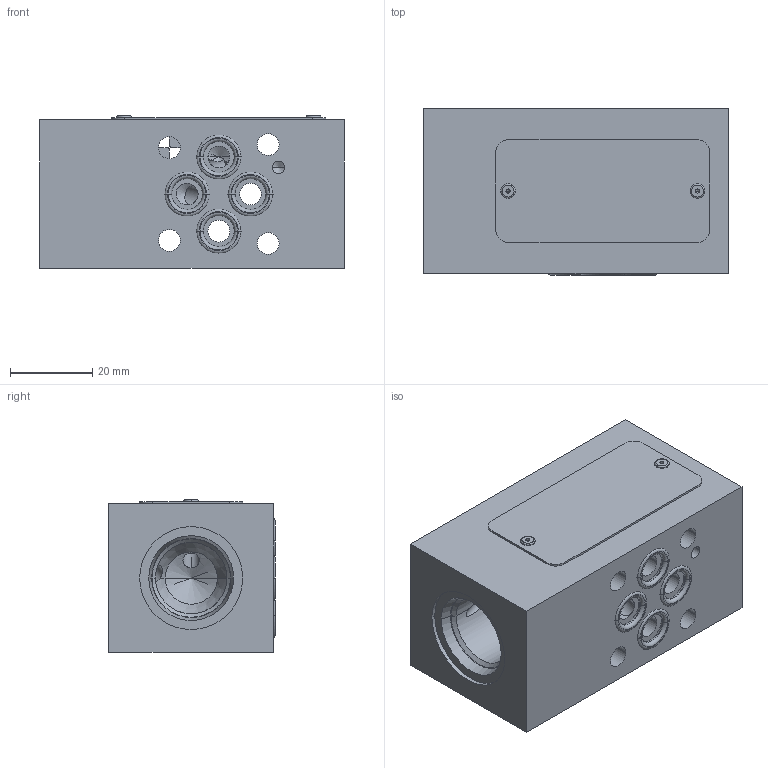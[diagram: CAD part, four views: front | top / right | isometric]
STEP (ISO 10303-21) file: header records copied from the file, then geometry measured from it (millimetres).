
FILE_DESCRIPTION((''),'2;1');
FILE_NAME('1000381456_ASM','2023-10-12T',('l.soukupova'),(''),'PRO/ENGINEER BY PARAMETRIC TECHNOLOGY CORPORATION, 2015440','PRO/ENGINEER BY PARAMETRIC TECHNOLOGY CORPORATION, 2015440','');
FILE_SCHEMA(('AUTOMOTIVE_DESIGN { 1 0 10303 214 1 1 1 1 }'));
Length unit declared in the file: millimetre
Products named in the file (5): 31850701; ORIA00750_292673; RD_LABEL_25X52_159703; AF_1932_16485; 1000381456_ASM
Assembly tree (8 placements, depth 2):
  1000381456_ASM
    31850701
    ORIA00750_292673  x4
    RD_LABEL_25X52_159703
    AF_1932_16485  x2
Bounding box: 74 x 40.4 x 37 mm (x, y, z)
Volume: 92892.8 mm3; surface area: 25346.5 mm2
Topology: 8 solids, 11 shells, 185 faces, 570 edges, 469 vertices
Faces by surface type: cylinder 88, torus 36, plane 34, cone 27
Entity records: 8251 total; most frequent: CARTESIAN_POINT 1672, DIRECTION 932, ORIENTED_EDGE 624, PRESENTATION_STYLE_ASSIGNMENT 558, STYLED_ITEM 493, CURVE_STYLE 487, AXIS2_PLACEMENT_3D 358, EDGE_CURVE 318
